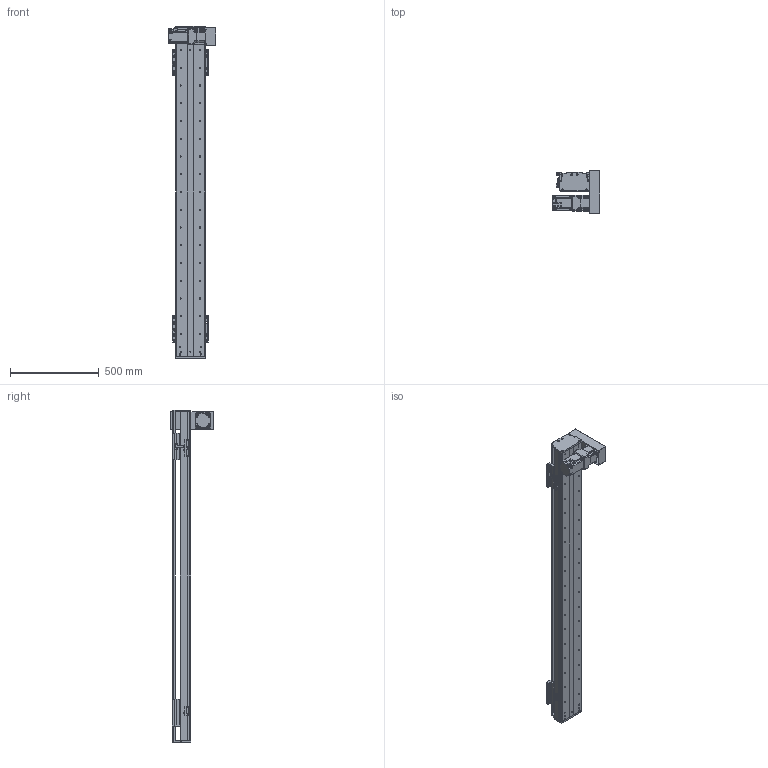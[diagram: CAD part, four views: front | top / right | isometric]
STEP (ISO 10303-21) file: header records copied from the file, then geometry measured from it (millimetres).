
FILE_DESCRIPTION(/* description */ (''),/* implementation_level */ '2;1');
FILE_NAME(/* name */ 'C:\Users\PC\Desktop\3D도면\STEP\새 폴더\DSB165-DR7G-W1500-L.stp',/* time_stamp */ '2018-06-25T16:00:13+09:00',/* author */ ('PC'),/* organization */ (''),/* preprocessor_version */ 'ST-DEVELOPER v16.5',/* originating_system */ 'Autodesk Inventor 2017',/* authorisation */ '');
FILE_SCHEMA (('AUTOMOTIVE_DESIGN { 1 0 10303 214 3 1 1 }'));
Length unit declared in the file: millimetre
Products named in the file (12): DSB165-DL7G-W1500-R_MIR; DSB165-BASE-L_MIR; hg-kr73__MIR; ab0901-p0401300102_MIR; 11-DSB165 BELT COVER_MIR; 12-DSB165-REAR COVER_MIR; 14-DSB165-FRONT COVER_MIR; DSB165-UP COVER_MIR; DSB165-TABLE(MSB20S)_MIR; DSR165-SENSOR DOG_MIR; SENSOR BRACKET(EE-SX674A)_MIR; pm-y65_step_MIR
Assembly tree (16 placements, depth 2):
  DSB165-DL7G-W1500-R_MIR
    DSB165-BASE-L_MIR
    hg-kr73__MIR
    ab0901-p0401300102_MIR
    11-DSB165 BELT COVER_MIR
    12-DSB165-REAR COVER_MIR
    14-DSB165-FRONT COVER_MIR
    DSB165-UP COVER_MIR
    DSB165-TABLE(MSB20S)_MIR  x2
    DSR165-SENSOR DOG_MIR
    pm-y65_step_MIR  x3
    SENSOR BRACKET(EE-SX674A)_MIR  x3
Bounding box: 270 x 242 x 1870 mm (x, y, z)
Volume: 11153648.2 mm3; surface area: 2595776.7 mm2
Topology: 17 solids, 17 shells, 1685 faces, 4524 edges, 2978 vertices
Faces by surface type: plane 921, cylinder 628, cone 124, sphere 8, torus 4
Full cylindrical faces by diameter (mm): 2.459 x20, 3.5 x6, 4.134 x42, 4.5 x18, 5 x27, 5.5 x36, 5.9 x4, 6 x4, 6.6 x14, 6.647 x52, 6.8 x1, 7 x4, 7.6 x4, 8.4 x1, 8.5 x24, 8.7 x1, 9.5 x32, 11 x6, 14 x16, 19 x1, 22 x1, 24 x1, 25 x1, 28 x1, 67 x1, 70 x2, 80 x1
Entity records: 36508 total; most frequent: DIRECTION 6330, CARTESIAN_POINT 6123, ORIENTED_EDGE 5570, EDGE_CURVE 2785, AXIS2_PLACEMENT_3D 2335, VERTEX_POINT 1990, EDGE_LOOP 1767, LINE 1660
